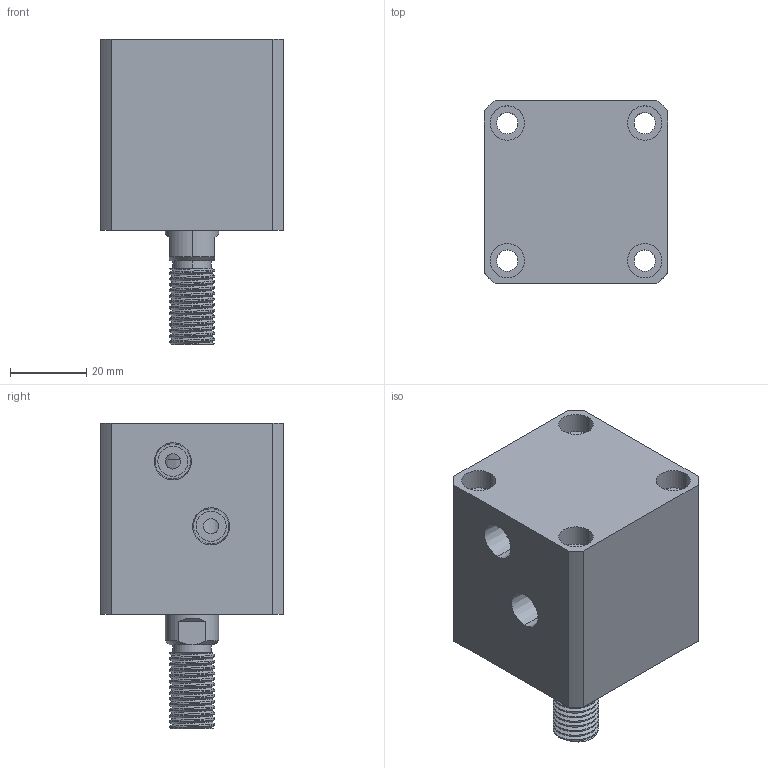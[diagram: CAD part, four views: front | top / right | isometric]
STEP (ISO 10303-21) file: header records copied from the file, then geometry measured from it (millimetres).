
FILE_DESCRIPTION (( 'STEP AP214' ), '1' );
FILE_NAME ('chtb-sd25x5w_asm.STEP', '2018-05-22T09:05:05', ( 'Windows' ), ( 'Microsoft' ), 'SwSTEP 2.0', 'SolidWorks 2015', '' );
FILE_SCHEMA (( 'AUTOMOTIVE_DESIGN' ));
Length unit declared in the file: millimetre
Products named in the file (4): CHTB-SD25X5WHSG; CHTB-SD25X5NBT; CHTB-25QG; chtb-sd25x5w_asm
Assembly tree (3 placements, depth 2):
  chtb-sd25x5w_asm
    CHTB-25QG
    CHTB-SD25X5NBT
    CHTB-SD25X5WHSG
Bounding box: 48 x 48 x 80 mm (x, y, z)
Volume: 107333.8 mm3; surface area: 32223.5 mm2
Topology: 3 solids, 3 shells, 178 faces, 474 edges, 323 vertices
Faces by surface type: cylinder 113, plane 39, cone 14, bspline 12
Entity records: 10610 total; most frequent: CARTESIAN_POINT 6273, ORIENTED_EDGE 940, DIRECTION 778, EDGE_CURVE 470, VERTEX_POINT 323, AXIS2_PLACEMENT_3D 317, EDGE_LOOP 217, FACE_OUTER_BOUND 178
